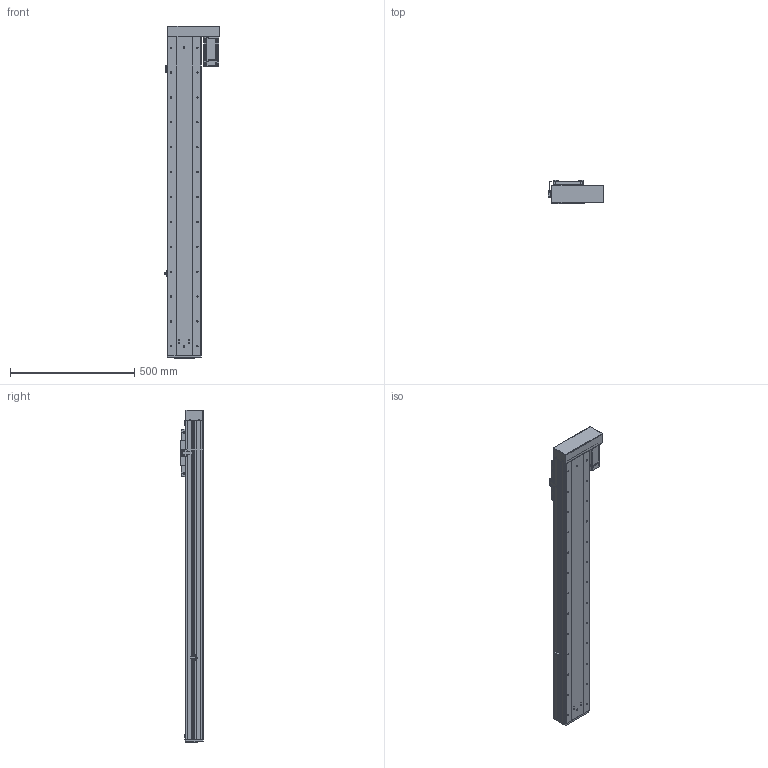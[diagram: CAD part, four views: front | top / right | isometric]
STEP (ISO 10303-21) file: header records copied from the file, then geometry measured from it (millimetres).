
FILE_DESCRIPTION (( 'STEP AP203' ), '1' );
FILE_NAME ('RY140F-L2020-300-RK.SLDASM_1000.step', '2021-03-02T08:50:50', ( '盈信电脑' ), ( '东莞市道滘镇水果街19号' ), 'SwSTEP 2.0', 'SolidWorks 2012', '' );
FILE_SCHEMA (( 'CONFIG_CONTROL_DESIGN' ));
Products named in the file (19): RY140F-L2020-300-RK.SLDASM_1000; RY140F-酘衵殏萇儂欶(400W); RY140F-左右折电机安装板(400W M5); RY140F-转折折电机座（7001）; 侐源滅袉蝶; RY140F-詩湍揤え; RY140F-672覜茼んえ; 15; 覜茼ん672; 侂狟400W侜督萇儂; RY140F-后盖板(铝件）; RY140F-直连型材铝滑块(16丝杆); RY140F-詩湍幗謫粣; RY100F-詩湍揤踡謫; RY140F-滅鳥奻裔; RY140F-直连型材铝滑块连接座; RY140F-300-RK倰第奻裔啣_1000; RY140F-300-RK蛌殏詩湍_1000; RY140F-300-RK倰第菁釱_1000
Assembly tree (23 placements, depth 3):
  RY140F-L2020-300-RK.SLDASM_1000
    RY140F-300-RK倰第菁釱_1000
    RY140F-300-RK倰第奻裔啣_1000  x2
    RY140F-300-RK蛌殏詩湍_1000
    RY140F-直连型材铝滑块连接座
    RY140F-滅鳥奻裔
    RY140F-詩湍幗謫粣
    RY100F-詩湍揤踡謫
    RY140F-直连型材铝滑块(16丝杆)
    RY140F-后盖板(铝件）
    侂狟400W侜督萇儂
      15
    覜茼ん672
    RY140F-672覜茼んえ
    RY140F-詩湍揤え  x2
    侐源滅袉蝶  x4
    RY140F-转折折电机座（7001）
    RY140F-左右折电机安装板(400W M5)
    RY140F-酘衵殏萇儂欶(400W)
Bounding box: 224.7 x 91 x 1334 mm (x, y, z)
Volume: 4975081.6 mm3; surface area: 1782132.1 mm2
Topology: 22 solids, 22 shells, 2105 faces, 5733 edges, 3620 vertices
Faces by surface type: cylinder 1032, plane 789, cone 254, bspline 26, torus 4
Entity records: 66231 total; most frequent: CARTESIAN_POINT 13909, DIRECTION 10674, ORIENTED_EDGE 10298, EDGE_CURVE 5149, AXIS2_PLACEMENT_3D 3849, VERTEX_POINT 3360, VECTOR 2976, LINE 2976
